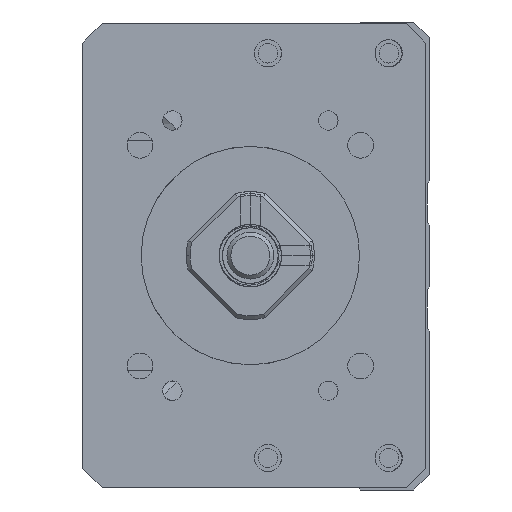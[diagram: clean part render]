
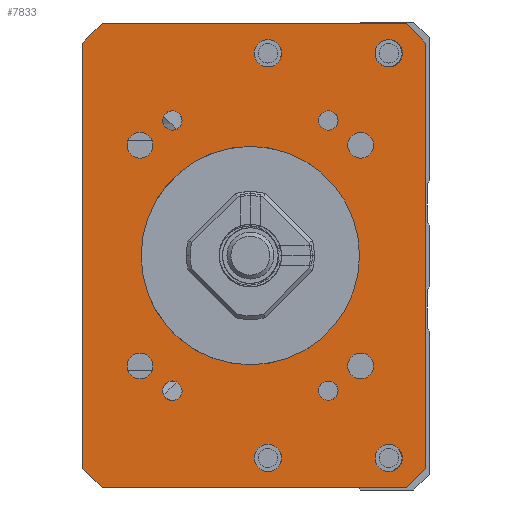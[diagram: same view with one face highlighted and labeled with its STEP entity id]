
A CAD part, left-side view. The second image highlights one B-rep face of the part: STEP entity #7833.
In plain terms, the highlighted planar face has unit normal (-1, 0, 0).
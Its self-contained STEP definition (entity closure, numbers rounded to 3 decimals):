
#4779=CIRCLE('',#15595,14.);
#4788=CIRCLE('',#15606,1.65);
#4789=CIRCLE('',#15607,1.65);
#4790=CIRCLE('',#15608,1.65);
#4791=CIRCLE('',#15609,1.65);
#4792=CIRCLE('',#15610,1.25);
#4793=CIRCLE('',#15611,1.75);
#4794=CIRCLE('',#15612,1.25);
#4795=CIRCLE('',#15613,1.75);
#4796=CIRCLE('',#15614,1.25);
#4797=CIRCLE('',#15615,1.75);
#4798=CIRCLE('',#15616,1.75);
#4799=CIRCLE('',#15617,1.25);
#5313=PLANE('',#15618);
#6178=LINE('',#20064,#7009);
#6180=LINE('',#20088,#7011);
#6181=LINE('',#20090,#7012);
#6182=LINE('',#20092,#7013);
#6183=LINE('',#20094,#7014);
#6184=LINE('',#20096,#7015);
#6185=LINE('',#20098,#7016);
#6186=LINE('',#20100,#7017);
#7009=VECTOR('',#16837,1.);
#7011=VECTOR('',#16861,1.);
#7012=VECTOR('',#16862,1.);
#7013=VECTOR('',#16863,1.);
#7014=VECTOR('',#16864,1.);
#7015=VECTOR('',#16865,1.);
#7016=VECTOR('',#16866,1.);
#7017=VECTOR('',#16867,1.);
#7833=ADVANCED_FACE('',(#8693,#8694,#8695,#8696,#8697,#8698,#8699,#8700,
#8701,#8702,#8703,#8704,#8705,#8706),#5313,.F.);
#8693=FACE_BOUND('',#9208,.T.);
#8694=FACE_BOUND('',#9209,.T.);
#8695=FACE_BOUND('',#9210,.T.);
#8696=FACE_BOUND('',#9211,.T.);
#8697=FACE_BOUND('',#9212,.T.);
#8698=FACE_BOUND('',#9213,.T.);
#8699=FACE_BOUND('',#9214,.T.);
#8700=FACE_BOUND('',#9215,.T.);
#8701=FACE_BOUND('',#9216,.T.);
#8702=FACE_BOUND('',#9217,.T.);
#8703=FACE_BOUND('',#9218,.T.);
#8704=FACE_BOUND('',#9219,.T.);
#8705=FACE_BOUND('',#9220,.T.);
#8706=FACE_BOUND('',#9221,.T.);
#9208=EDGE_LOOP('',(#10279));
#9209=EDGE_LOOP('',(#10280));
#9210=EDGE_LOOP('',(#10281));
#9211=EDGE_LOOP('',(#10282));
#9212=EDGE_LOOP('',(#10283));
#9213=EDGE_LOOP('',(#10284));
#9214=EDGE_LOOP('',(#10285));
#9215=EDGE_LOOP('',(#10286));
#9216=EDGE_LOOP('',(#10287));
#9217=EDGE_LOOP('',(#10288,#10289,#10290,#10291,#10292,#10293,#10294,#10295));
#9218=EDGE_LOOP('',(#10296));
#9219=EDGE_LOOP('',(#10297));
#9220=EDGE_LOOP('',(#10298));
#9221=EDGE_LOOP('',(#10299));
#10279=ORIENTED_EDGE('',*,*,#14102,.F.);
#10280=ORIENTED_EDGE('',*,*,#14103,.F.);
#10281=ORIENTED_EDGE('',*,*,#14104,.F.);
#10282=ORIENTED_EDGE('',*,*,#14105,.F.);
#10283=ORIENTED_EDGE('',*,*,#14106,.F.);
#10284=ORIENTED_EDGE('',*,*,#14107,.T.);
#10285=ORIENTED_EDGE('',*,*,#14108,.F.);
#10286=ORIENTED_EDGE('',*,*,#14109,.F.);
#10287=ORIENTED_EDGE('',*,*,#14110,.F.);
#10288=ORIENTED_EDGE('',*,*,#14099,.T.);
#10289=ORIENTED_EDGE('',*,*,#14111,.T.);
#10290=ORIENTED_EDGE('',*,*,#14112,.F.);
#10291=ORIENTED_EDGE('',*,*,#14113,.T.);
#10292=ORIENTED_EDGE('',*,*,#14114,.F.);
#10293=ORIENTED_EDGE('',*,*,#14115,.T.);
#10294=ORIENTED_EDGE('',*,*,#14116,.T.);
#10295=ORIENTED_EDGE('',*,*,#14117,.T.);
#10296=ORIENTED_EDGE('',*,*,#14118,.F.);
#10297=ORIENTED_EDGE('',*,*,#14119,.F.);
#10298=ORIENTED_EDGE('',*,*,#14120,.F.);
#10299=ORIENTED_EDGE('',*,*,#14079,.F.);
#13027=VERTEX_POINT('',#20003);
#13047=VERTEX_POINT('',#20063);
#13048=VERTEX_POINT('',#20065);
#13050=VERTEX_POINT('',#20071);
#13051=VERTEX_POINT('',#20073);
#13052=VERTEX_POINT('',#20075);
#13053=VERTEX_POINT('',#20077);
#13054=VERTEX_POINT('',#20079);
#13055=VERTEX_POINT('',#20081);
#13056=VERTEX_POINT('',#20083);
#13057=VERTEX_POINT('',#20085);
#13058=VERTEX_POINT('',#20087);
#13059=VERTEX_POINT('',#20089);
#13060=VERTEX_POINT('',#20091);
#13061=VERTEX_POINT('',#20093);
#13062=VERTEX_POINT('',#20095);
#13063=VERTEX_POINT('',#20097);
#13064=VERTEX_POINT('',#20099);
#13065=VERTEX_POINT('',#20102);
#13066=VERTEX_POINT('',#20104);
#13067=VERTEX_POINT('',#20106);
#14079=EDGE_CURVE('',#13027,#13027,#4779,.T.);
#14099=EDGE_CURVE('',#13048,#13047,#6178,.T.);
#14102=EDGE_CURVE('',#13050,#13050,#4788,.T.);
#14103=EDGE_CURVE('',#13051,#13051,#4789,.T.);
#14104=EDGE_CURVE('',#13052,#13052,#4790,.T.);
#14105=EDGE_CURVE('',#13053,#13053,#4791,.T.);
#14106=EDGE_CURVE('',#13054,#13054,#4792,.T.);
#14107=EDGE_CURVE('',#13055,#13055,#4793,.T.);
#14108=EDGE_CURVE('',#13056,#13056,#4794,.T.);
#14109=EDGE_CURVE('',#13057,#13057,#4795,.T.);
#14110=EDGE_CURVE('',#13058,#13058,#4796,.T.);
#14111=EDGE_CURVE('',#13047,#13059,#6180,.T.);
#14112=EDGE_CURVE('',#13060,#13059,#6181,.T.);
#14113=EDGE_CURVE('',#13060,#13061,#6182,.T.);
#14114=EDGE_CURVE('',#13062,#13061,#6183,.T.);
#14115=EDGE_CURVE('',#13062,#13063,#6184,.T.);
#14116=EDGE_CURVE('',#13063,#13064,#6185,.T.);
#14117=EDGE_CURVE('',#13064,#13048,#6186,.T.);
#14118=EDGE_CURVE('',#13065,#13065,#4797,.T.);
#14119=EDGE_CURVE('',#13066,#13066,#4798,.T.);
#14120=EDGE_CURVE('',#13067,#13067,#4799,.T.);
#15595=AXIS2_PLACEMENT_3D('',#20002,#16811,#16812);
#15606=AXIS2_PLACEMENT_3D('',#20070,#16843,#16844);
#15607=AXIS2_PLACEMENT_3D('',#20072,#16845,#16846);
#15608=AXIS2_PLACEMENT_3D('',#20074,#16847,#16848);
#15609=AXIS2_PLACEMENT_3D('',#20076,#16849,#16850);
#15610=AXIS2_PLACEMENT_3D('',#20078,#16851,#16852);
#15611=AXIS2_PLACEMENT_3D('',#20080,#16853,#16854);
#15612=AXIS2_PLACEMENT_3D('',#20082,#16855,#16856);
#15613=AXIS2_PLACEMENT_3D('',#20084,#16857,#16858);
#15614=AXIS2_PLACEMENT_3D('',#20086,#16859,#16860);
#15615=AXIS2_PLACEMENT_3D('',#20101,#16868,#16869);
#15616=AXIS2_PLACEMENT_3D('',#20103,#16870,#16871);
#15617=AXIS2_PLACEMENT_3D('',#20105,#16872,#16873);
#15618=AXIS2_PLACEMENT_3D('',#20107,#16874,#16875);
#16811=DIRECTION('',(-1.,0.,0.));
#16812=DIRECTION('',(0.,1.,0.));
#16837=DIRECTION('',(0.,0.,-1.));
#16843=DIRECTION('',(-1.,0.,0.));
#16844=DIRECTION('',(0.,0.,1.));
#16845=DIRECTION('',(-1.,0.,0.));
#16846=DIRECTION('',(0.,0.,1.));
#16847=DIRECTION('',(-1.,0.,0.));
#16848=DIRECTION('',(0.,0.,1.));
#16849=DIRECTION('',(-1.,0.,0.));
#16850=DIRECTION('',(0.,0.,1.));
#16851=DIRECTION('',(-1.,0.,0.));
#16852=DIRECTION('',(0.,1.,0.));
#16853=DIRECTION('',(1.,0.,0.));
#16854=DIRECTION('',(0.,0.,1.));
#16855=DIRECTION('',(-1.,0.,0.));
#16856=DIRECTION('',(0.,1.,0.));
#16857=DIRECTION('',(-1.,0.,0.));
#16858=DIRECTION('',(0.,0.,1.));
#16859=DIRECTION('',(-1.,0.,0.));
#16860=DIRECTION('',(0.,1.,0.));
#16861=DIRECTION('',(0.,-0.707,-0.707));
#16862=DIRECTION('',(0.,1.,0.));
#16863=DIRECTION('',(0.,-0.707,0.707));
#16864=DIRECTION('',(0.,0.,-1.));
#16865=DIRECTION('',(0.,0.707,0.707));
#16866=DIRECTION('',(0.,1.,0.));
#16867=DIRECTION('',(0.,0.707,-0.707));
#16868=DIRECTION('',(-1.,0.,0.));
#16869=DIRECTION('',(0.,0.,1.));
#16870=DIRECTION('',(-1.,0.,0.));
#16871=DIRECTION('',(0.,0.,1.));
#16872=DIRECTION('',(-1.,0.,0.));
#16873=DIRECTION('',(0.,1.,0.));
#16874=DIRECTION('',(1.,0.,0.));
#16875=DIRECTION('',(0.,1.,0.));
#20002=CARTESIAN_POINT('',(-211.,0.,0.));
#20003=CARTESIAN_POINT('',(-211.,14.,0.));
#20063=CARTESIAN_POINT('',(-211.,21.499,-27.25));
#20064=CARTESIAN_POINT('',(-211.,21.499,29.75));
#20065=CARTESIAN_POINT('',(-211.,21.499,27.25));
#20070=CARTESIAN_POINT('',(-211.,14.142,14.142));
#20071=CARTESIAN_POINT('',(-211.,14.142,15.792));
#20072=CARTESIAN_POINT('',(-211.,-14.142,14.142));
#20073=CARTESIAN_POINT('',(-211.,-14.142,15.792));
#20074=CARTESIAN_POINT('',(-211.,14.142,-14.142));
#20075=CARTESIAN_POINT('',(-211.,14.142,-12.492));
#20076=CARTESIAN_POINT('',(-211.,-14.142,-14.142));
#20077=CARTESIAN_POINT('',(-211.,-14.142,-12.492));
#20078=CARTESIAN_POINT('',(-211.,-10.,-17.321));
#20079=CARTESIAN_POINT('',(-211.,-8.75,-17.321));
#20080=CARTESIAN_POINT('',(-211.,-2.25,-25.936));
#20081=CARTESIAN_POINT('',(-211.,-2.25,-24.186));
#20082=CARTESIAN_POINT('',(-211.,10.,17.321));
#20083=CARTESIAN_POINT('',(-211.,11.25,17.321));
#20084=CARTESIAN_POINT('',(-211.,-2.25,25.936));
#20085=CARTESIAN_POINT('',(-211.,-2.25,27.686));
#20086=CARTESIAN_POINT('',(-211.,10.,-17.321));
#20087=CARTESIAN_POINT('',(-211.,11.25,-17.321));
#20088=CARTESIAN_POINT('',(-211.,18.999,-29.75));
#20089=CARTESIAN_POINT('',(-211.,18.999,-29.75));
#20090=CARTESIAN_POINT('',(-211.,-22.501,-29.75));
#20091=CARTESIAN_POINT('',(-211.,-20.001,-29.75));
#20092=CARTESIAN_POINT('',(-211.,-22.501,-27.25));
#20093=CARTESIAN_POINT('',(-211.,-22.501,-27.25));
#20094=CARTESIAN_POINT('',(-211.,-22.501,29.75));
#20095=CARTESIAN_POINT('',(-211.,-22.501,27.25));
#20096=CARTESIAN_POINT('',(-211.,-22.501,27.25));
#20097=CARTESIAN_POINT('',(-211.,-20.001,29.75));
#20098=CARTESIAN_POINT('',(-211.,-22.501,29.75));
#20099=CARTESIAN_POINT('',(-211.,18.999,29.75));
#20100=CARTESIAN_POINT('',(-211.,18.999,29.75));
#20101=CARTESIAN_POINT('',(-211.,-17.75,25.936));
#20102=CARTESIAN_POINT('',(-211.,-17.75,27.686));
#20103=CARTESIAN_POINT('',(-211.,-17.75,-25.936));
#20104=CARTESIAN_POINT('',(-211.,-17.75,-24.186));
#20105=CARTESIAN_POINT('',(-211.,-10.,17.321));
#20106=CARTESIAN_POINT('',(-211.,-8.75,17.321));
#20107=CARTESIAN_POINT('',(-211.,-22.501,29.75));
